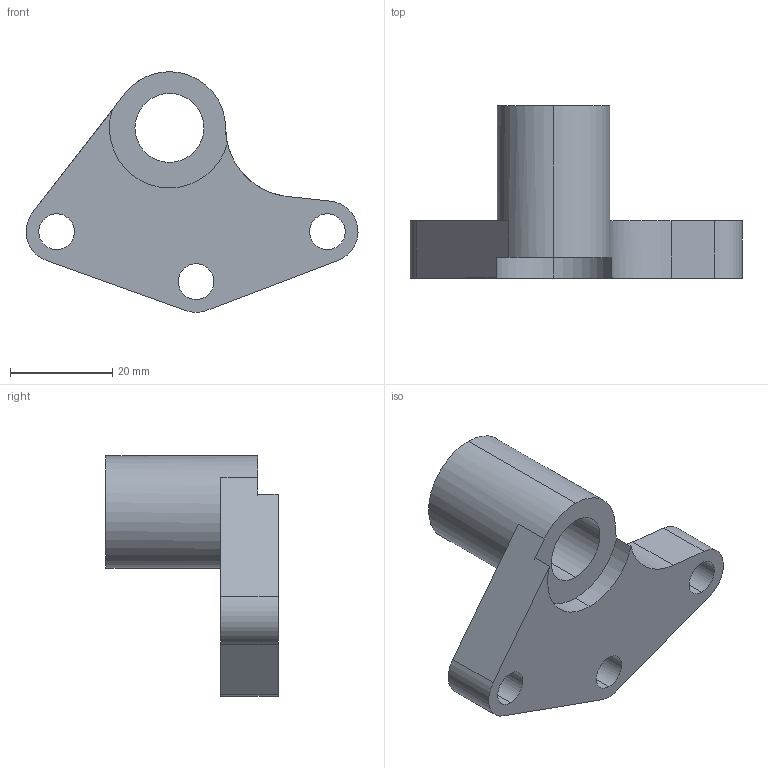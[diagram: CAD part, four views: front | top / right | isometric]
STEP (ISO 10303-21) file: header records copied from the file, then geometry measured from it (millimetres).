
FILE_DESCRIPTION (( 'STEP AP214' ), '1' );
FILE_NAME ('Äåòàëü1.STEP', '2026-05-15T10:32:09', ( 'USER' ), ( '' ), 'SwSTEP 2.0', 'SolidWorks 2015', '' );
FILE_SCHEMA (( 'AUTOMOTIVE_DESIGN' ));
Length unit declared in the file: millimetre
Products named in the file (1): 櫻蠉錪1
Bounding box: 64.99 x 33.7 x 47.1 mm (x, y, z)
Volume: 20596.1 mm3; surface area: 8421.4 mm2
Topology: 1 solids, 1 shells, 25 faces, 69 edges, 46 vertices
Faces by surface type: cylinder 17, plane 8
Entity records: 870 total; most frequent: DIRECTION 158, CARTESIAN_POINT 141, ORIENTED_EDGE 138, EDGE_CURVE 69, AXIS2_PLACEMENT_3D 63, VERTEX_POINT 46, CIRCLE 37, EDGE_LOOP 33
